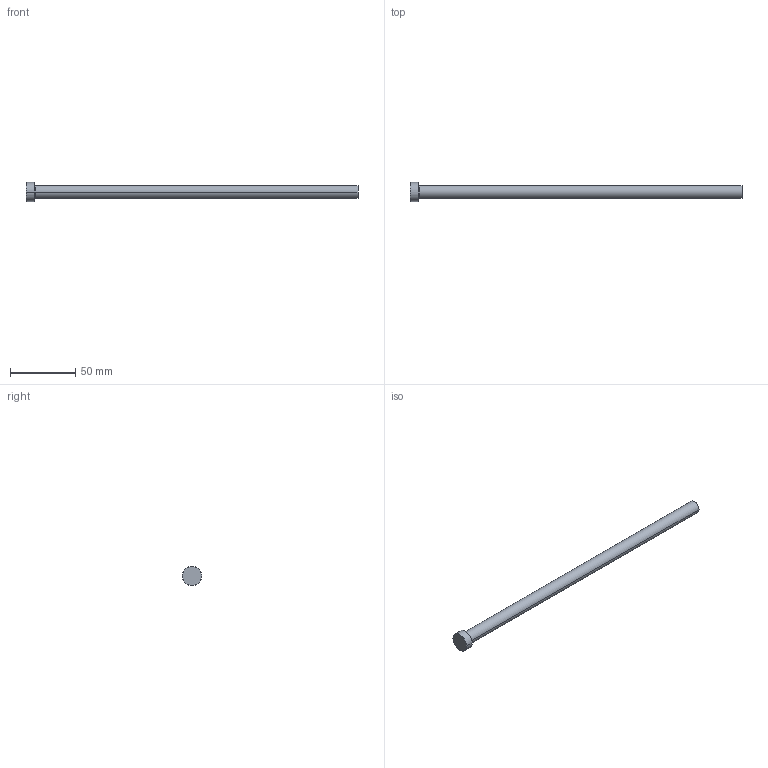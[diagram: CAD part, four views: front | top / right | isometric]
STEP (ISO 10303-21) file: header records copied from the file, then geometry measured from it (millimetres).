
FILE_DESCRIPTION (( 'STEP AP214' ), '1' );
FILE_NAME ('P26-10.STEP', '2020-03-12T10:02:52', ( '' ), ( '' ), 'SwSTEP 2.0', 'SolidWorks 2018', '' );
FILE_SCHEMA (( 'AUTOMOTIVE_DESIGN' ));
Length unit declared in the file: inch
Products named in the file (1): P26-10
Bounding box: 254 x 14.68 x 14.68 mm (x, y, z)
Volume: 20197.2 mm3; surface area: 8329.6 mm2
Topology: 1 solids, 1 shells, 13 faces, 24 edges, 14 vertices
Faces by surface type: cone 4, cylinder 4, plane 3, torus 2
Entity records: 366 total; most frequent: DIRECTION 68, CARTESIAN_POINT 52, ORIENTED_EDGE 48, AXIS2_PLACEMENT_3D 30, EDGE_CURVE 24, CIRCLE 16, VERTEX_POINT 14, EDGE_LOOP 14
